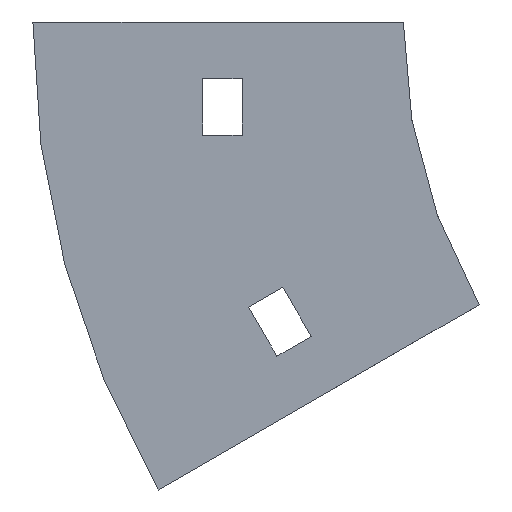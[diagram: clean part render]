
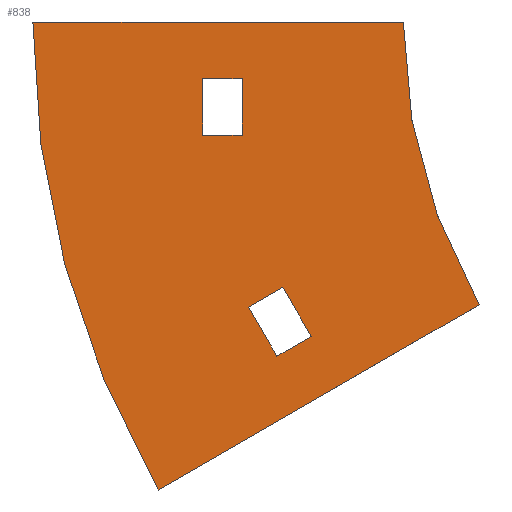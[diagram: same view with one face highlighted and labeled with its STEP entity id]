
A CAD part, left-side view. The second image highlights one B-rep face of the part: STEP entity #838.
In plain terms, the highlighted planar face has unit normal (-1, 0, 0).
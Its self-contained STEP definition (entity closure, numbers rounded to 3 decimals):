
#1 = CARTESIAN_POINT ( 'NONE',  ( -77., 28.5, -10. ) ) ;
#8 = DIRECTION ( 'NONE',  ( 0., 0.866, -0.5 ) ) ;
#10 = ORIENTED_EDGE ( 'NONE', *, *, #747, .T. ) ;
#15 = CARTESIAN_POINT ( 'NONE',  ( -77., 35.5, -20. ) ) ;
#21 = DIRECTION ( 'NONE',  ( 0., 0., 1. ) ) ;
#26 = ORIENTED_EDGE ( 'NONE', *, *, #476, .F. ) ;
#28 = DIRECTION ( 'NONE',  ( 0., 0., 1. ) ) ;
#34 = DIRECTION ( 'NONE',  ( -1., 0., 0. ) ) ;
#41 = CARTESIAN_POINT ( 'NONE',  ( -77., 65.5, 0. ) ) ;
#58 = VECTOR ( 'NONE', #319, 1000. ) ;
#87 = VECTOR ( 'NONE', #28, 1000. ) ;
#115 = LINE ( 'NONE', #190, #139 ) ;
#117 = ORIENTED_EDGE ( 'NONE', *, *, #822, .F. ) ;
#119 = DIRECTION ( 'NONE',  ( 0., -0.866, 0.5 ) ) ;
#120 = VERTEX_POINT ( 'NONE', #1041 ) ;
#127 = DIRECTION ( 'NONE',  ( 0., -1., 0. ) ) ;
#139 = VECTOR ( 'NONE', #8, 1000. ) ;
#159 = CARTESIAN_POINT ( 'NONE',  ( -77., 22.346, -59.09 ) ) ;
#183 = VERTEX_POINT ( 'NONE', #352 ) ;
#188 = CARTESIAN_POINT ( 'NONE',  ( -77., -100., 0. ) ) ;
#190 = CARTESIAN_POINT ( 'NONE',  ( -77., -13.397, -50. ) ) ;
#195 = DIRECTION ( 'NONE',  ( 0., 0., 1. ) ) ;
#200 = VERTEX_POINT ( 'NONE', #623 ) ;
#210 = VECTOR ( 'NONE', #936, 1000. ) ;
#214 = DIRECTION ( 'NONE',  ( 0., 0.866, -0.5 ) ) ;
#221 = CARTESIAN_POINT ( 'NONE',  ( -77., 35.5, -10. ) ) ;
#225 = ORIENTED_EDGE ( 'NONE', *, *, #418, .T. ) ;
#229 = VECTOR ( 'NONE', #492, 1000. ) ;
#230 = LINE ( 'NONE', #582, #229 ) ;
#236 = CARTESIAN_POINT ( 'NONE',  ( -77., 16.284, -55.59 ) ) ;
#269 = AXIS2_PLACEMENT_3D ( 'NONE', #188, #1107, #195 ) ;
#275 = ORIENTED_EDGE ( 'NONE', *, *, #1026, .F. ) ;
#276 = VERTEX_POINT ( 'NONE', #373 ) ;
#283 = LINE ( 'NONE', #41, #812 ) ;
#284 = EDGE_CURVE ( 'NONE', #1028, #625, #1002, .T. ) ;
#300 = LINE ( 'NONE', #389, #775 ) ;
#309 = LINE ( 'NONE', #399, #58 ) ;
#313 = DIRECTION ( 'NONE',  ( 0., 0.5, 0.866 ) ) ;
#317 = VERTEX_POINT ( 'NONE', #1050 ) ;
#319 = DIRECTION ( 'NONE',  ( 0., -0.5, -0.866 ) ) ;
#329 = ORIENTED_EDGE ( 'NONE', *, *, #583, .T. ) ;
#336 = ORIENTED_EDGE ( 'NONE', *, *, #1008, .F. ) ;
#352 = CARTESIAN_POINT ( 'NONE',  ( -77., 21.284, -46.929 ) ) ;
#365 = FACE_BOUND ( 'NONE', #986, .T. ) ;
#367 = CARTESIAN_POINT ( 'NONE',  ( -77., -100., 0. ) ) ;
#373 = CARTESIAN_POINT ( 'NONE',  ( -77., 28.5, -20. ) ) ;
#386 = LINE ( 'NONE', #653, #684 ) ;
#389 = CARTESIAN_POINT ( 'NONE',  ( -77., 22.346, -59.09 ) ) ;
#399 = CARTESIAN_POINT ( 'NONE',  ( -77., 22.346, -59.09 ) ) ;
#418 = EDGE_CURVE ( 'NONE', #625, #646, #1119, .T. ) ;
#436 = EDGE_CURVE ( 'NONE', #459, #701, #309, .T. ) ;
#445 = VERTEX_POINT ( 'NONE', #745 ) ;
#459 = VERTEX_POINT ( 'NONE', #670 ) ;
#476 = EDGE_CURVE ( 'NONE', #706, #183, #490, .T. ) ;
#479 = CARTESIAN_POINT ( 'NONE',  ( -77., 28.5, -10. ) ) ;
#490 = LINE ( 'NONE', #236, #657 ) ;
#492 = DIRECTION ( 'NONE',  ( 0., 1., 0. ) ) ;
#540 = DIRECTION ( 'NONE',  ( 1., 0., 0. ) ) ;
#582 = CARTESIAN_POINT ( 'NONE',  ( -77., 35.5, -20. ) ) ;
#583 = EDGE_CURVE ( 'NONE', #276, #1028, #230, .T. ) ;
#603 = AXIS2_PLACEMENT_3D ( 'NONE', #367, #540, #1068 ) ;
#606 = ORIENTED_EDGE ( 'NONE', *, *, #284, .T. ) ;
#623 = CARTESIAN_POINT ( 'NONE',  ( -77., 0., 0. ) ) ;
#625 = VERTEX_POINT ( 'NONE', #776 ) ;
#636 = EDGE_LOOP ( 'NONE', ( #117, #799, #336, #275 ) ) ;
#645 = EDGE_LOOP ( 'NONE', ( #26, #870, #770, #721 ) ) ;
#646 = VERTEX_POINT ( 'NONE', #479 ) ;
#653 = CARTESIAN_POINT ( 'NONE',  ( -77., 27.346, -50.429 ) ) ;
#657 = VECTOR ( 'NONE', #313, 1000. ) ;
#670 = CARTESIAN_POINT ( 'NONE',  ( -77., 27.346, -50.429 ) ) ;
#684 = VECTOR ( 'NONE', #214, 1000. ) ;
#701 = VERTEX_POINT ( 'NONE', #159 ) ;
#706 = VERTEX_POINT ( 'NONE', #708 ) ;
#708 = CARTESIAN_POINT ( 'NONE',  ( -77., 16.284, -55.59 ) ) ;
#721 = ORIENTED_EDGE ( 'NONE', *, *, #1083, .F. ) ;
#729 = CARTESIAN_POINT ( 'NONE',  ( -77., 35.5, -10. ) ) ;
#745 = CARTESIAN_POINT ( 'NONE',  ( -77., -13.397, -50. ) ) ;
#747 = EDGE_CURVE ( 'NONE', #646, #276, #794, .T. ) ;
#754 = VECTOR ( 'NONE', #960, 1000. ) ;
#770 = ORIENTED_EDGE ( 'NONE', *, *, #436, .F. ) ;
#775 = VECTOR ( 'NONE', #119, 1000. ) ;
#776 = CARTESIAN_POINT ( 'NONE',  ( -77., 35.5, -10. ) ) ;
#793 = CIRCLE ( 'NONE', #269, 100. ) ;
#794 = LINE ( 'NONE', #1, #754 ) ;
#799 = ORIENTED_EDGE ( 'NONE', *, *, #844, .F. ) ;
#812 = VECTOR ( 'NONE', #127, 1000. ) ;
#814 = AXIS2_PLACEMENT_3D ( 'NONE', #824, #34, #21 ) ;
#822 = EDGE_CURVE ( 'NONE', #200, #445, #793, .T. ) ;
#824 = CARTESIAN_POINT ( 'NONE',  ( -77., -100., 0. ) ) ;
#828 = FACE_OUTER_BOUND ( 'NONE', #636, .T. ) ;
#834 = PLANE ( 'NONE',  #814 ) ;
#838 = ADVANCED_FACE ( 'NONE', ( #365, #828, #907 ), #834, .T. ) ;
#844 = EDGE_CURVE ( 'NONE', #317, #200, #283, .T. ) ;
#870 = ORIENTED_EDGE ( 'NONE', *, *, #1130, .F. ) ;
#907 = FACE_BOUND ( 'NONE', #645, .T. ) ;
#936 = DIRECTION ( 'NONE',  ( 0., -1., 0. ) ) ;
#960 = DIRECTION ( 'NONE',  ( 0., 0., -1. ) ) ;
#986 = EDGE_LOOP ( 'NONE', ( #225, #10, #329, #606 ) ) ;
#1002 = LINE ( 'NONE', #729, #87 ) ;
#1008 = EDGE_CURVE ( 'NONE', #120, #317, #1114, .T. ) ;
#1026 = EDGE_CURVE ( 'NONE', #445, #120, #115, .T. ) ;
#1028 = VERTEX_POINT ( 'NONE', #15 ) ;
#1041 = CARTESIAN_POINT ( 'NONE',  ( -77., 43.327, -82.75 ) ) ;
#1050 = CARTESIAN_POINT ( 'NONE',  ( -77., 65.5, 0. ) ) ;
#1068 = DIRECTION ( 'NONE',  ( 0., 0., 1. ) ) ;
#1083 = EDGE_CURVE ( 'NONE', #183, #459, #386, .T. ) ;
#1107 = DIRECTION ( 'NONE',  ( -1., 0., 0. ) ) ;
#1114 = CIRCLE ( 'NONE', #603, 165.5 ) ;
#1119 = LINE ( 'NONE', #221, #210 ) ;
#1130 = EDGE_CURVE ( 'NONE', #701, #706, #300, .T. ) ;
